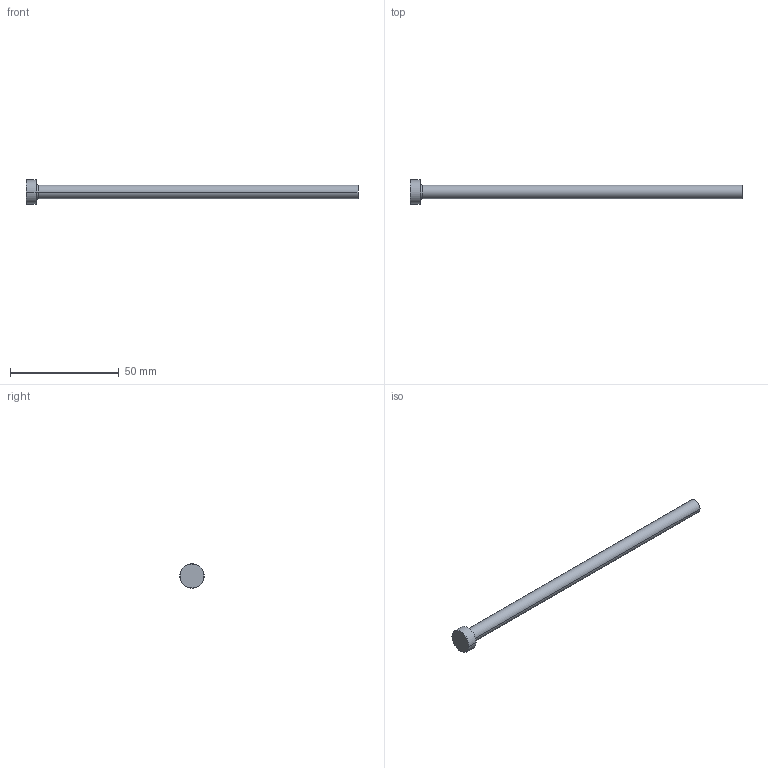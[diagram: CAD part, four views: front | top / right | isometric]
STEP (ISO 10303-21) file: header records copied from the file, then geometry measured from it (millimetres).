
FILE_DESCRIPTION (( 'STEP AP214' ), '1' );
FILE_NAME ('P17-6.STEP', '2020-03-11T18:40:18', ( '' ), ( '' ), 'SwSTEP 2.0', 'SolidWorks 2018', '' );
FILE_SCHEMA (( 'AUTOMOTIVE_DESIGN' ));
Length unit declared in the file: inch
Products named in the file (1): P17-6
Bounding box: 152.4 x 11.11 x 11.11 mm (x, y, z)
Volume: 5128.5 mm3; surface area: 3291.5 mm2
Topology: 1 solids, 1 shells, 13 faces, 24 edges, 14 vertices
Faces by surface type: cone 4, cylinder 4, plane 3, torus 2
Entity records: 366 total; most frequent: DIRECTION 68, CARTESIAN_POINT 52, ORIENTED_EDGE 48, AXIS2_PLACEMENT_3D 30, EDGE_CURVE 24, CIRCLE 16, VERTEX_POINT 14, EDGE_LOOP 14
